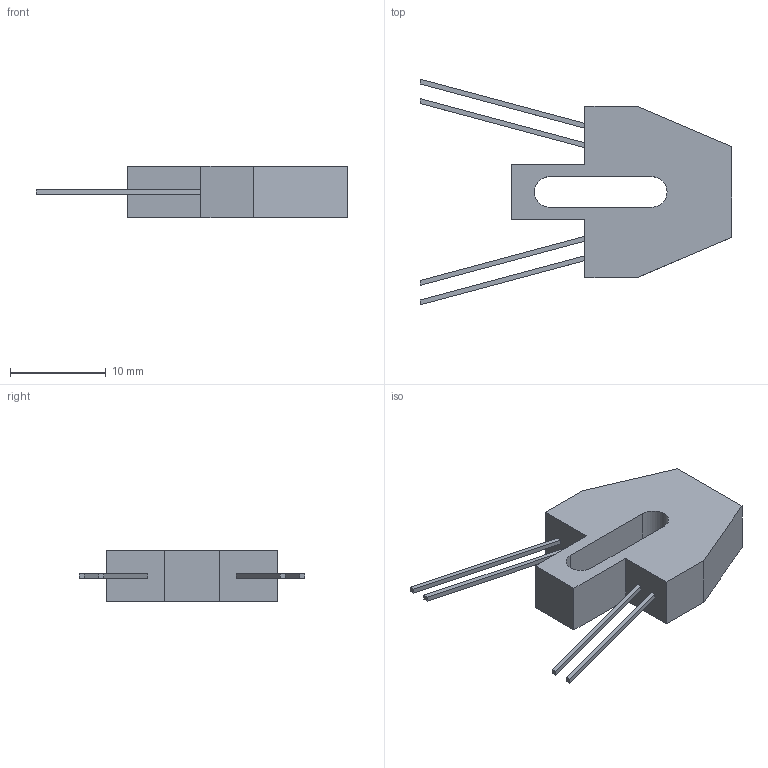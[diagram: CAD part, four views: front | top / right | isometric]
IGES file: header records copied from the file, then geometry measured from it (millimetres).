
Global section: file name: No Iges File Name specified; native system: AutoDesk Inventor R5.0; preprocessor: AutoDesk Inventor Iges Exporter R5.0; author: No Author specified; organization: No Organization specified; date: 20061105.142850; units: inch
Bounding box: 32.49 x 23.54 x 5.33 mm (x, y, z)
Surface area: 1183.6 mm2 (no closed solid volume)
Topology: 0 solids, 0 shells, 46 faces, 228 edges, 228 vertices
Faces by surface type: plane 29, bspline 15, revolution 2
